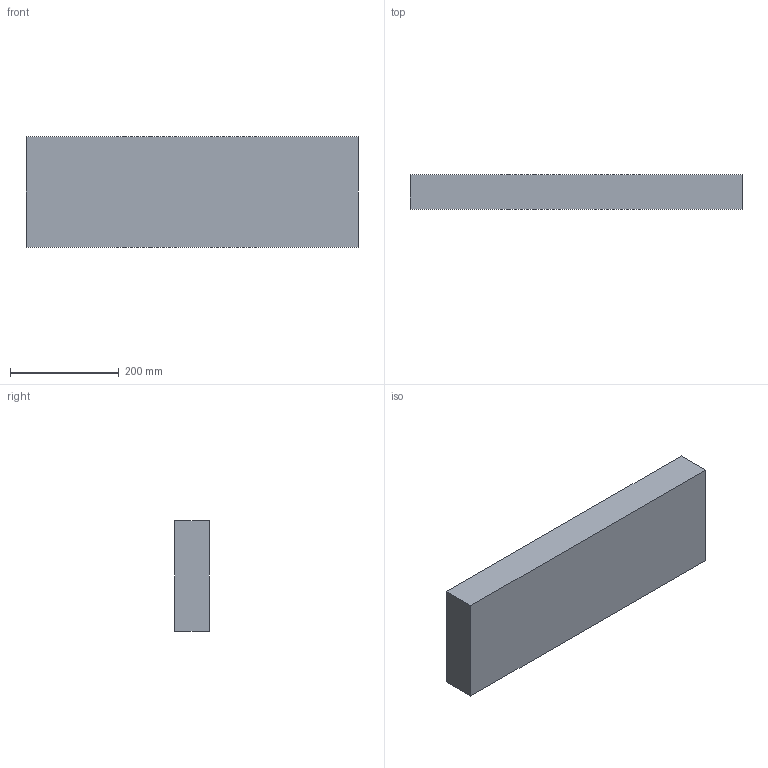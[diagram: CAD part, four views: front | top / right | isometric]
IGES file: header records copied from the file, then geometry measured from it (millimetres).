
Start section: SolidWorks IGES file using NURBS representation for surfaces
Global section: file name: C:\Users\rjehangir\Dropbox\BlueRobotics\BR-Engineering\Models\FLOAT-R1\FLOAT-24X8X2P5-R1.IGS; native system: SolidWorks 2012; preprocessor: SolidWorks 2012; author: rjehangir; date: 150608.151236; units: inch
Bounding box: 609.6 x 63.5 x 203.2 mm (x, y, z)
Surface area: 350967 mm2 (no closed solid volume)
Topology: 0 solids, 0 shells, 6 faces, 24 edges, 24 vertices
Faces by surface type: bspline 6
